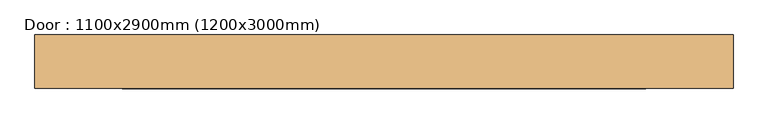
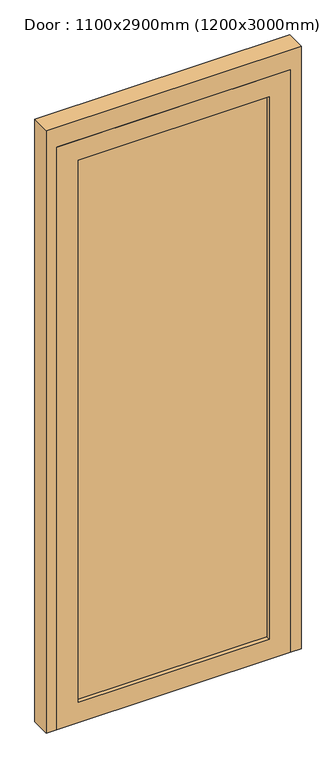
"""IFC4 building model written with IfcOpenShell, lengths in millimetres: door geometry, Door : 1100x2900mm (1200x3000mm)."""

from ifc_helpers import new_model, si_unit, frame, origin, place, context, project, spatial, polyline, outline, extrude, source, transform, mapped, element, save


def door_1100x2900mm_1200x3000mm_ee6ac332(model_context):
    return source(origin(), model_context, "Body", "SweptSolid", [
        extrude(outline(polyline([(450.0, 205.0), (450.0, 153.0), (-450.0, 153.0), (-450.0, 205.0), (450.0, 205.0)])), frame((0.0, 0.0, 100.0), z_axis=(0.0, 0.0, 1.0), x_axis=(1.0, 0.0, 0.0)), (0.0, 0.0, 1.0), 2700.0),
        extrude(outline(polyline([(2900.0, 550.0), (2900.0, -550.0), (0.0, -550.0), (0.0, 550.0), (2900.0, 550.0)]), holes=[polyline([(2800.0, 450.0), (100.0, 450.0), (100.0, -450.0), (2800.0, -450.0), (2800.0, 450.0)])]), frame((0.0, 133.0, 0.0), z_axis=(0.0, 1.0, 0.0), x_axis=(0.0, 0.0, 1.0)), (0.0, 0.0, 1.0), 92.0),
        extrude(outline(polyline([(3000.0, -600.0), (0.0, -600.0), (0.0, -550.0), (2900.0, -550.0), (2900.0, 550.0), (0.0, 550.0), (0.0, 600.0), (3000.0, 600.0), (3000.0, -600.0)])), frame((0.0, 133.0, 0.0), z_axis=(0.0, 1.0, 0.0), x_axis=(0.0, 0.0, 1.0)), (0.0, 0.0, 1.0), 92.0),
    ])


if __name__ == "__main__":
    model = new_model("IFC4")
    model_context = context("Model", 3, world=origin())
    ifc_project = project(units=[si_unit("LENGTHUNIT", "METRE", prefix="MILLI")], contexts=[model_context])
    site = spatial("IfcSite", under=ifc_project)
    building = spatial("IfcBuilding", under=site)
    placement = place(None, origin())
    door_1100x2900mm_1200x3000mm_shape = door_1100x2900mm_1200x3000mm_ee6ac332(model_context)
    element("IfcDoor", 1, ObjectType="Door : 1100x2900mm (1200x3000mm)", at=placement, inside=building, context=model_context, shape_type="MappedRepresentation", body=[
        mapped(door_1100x2900mm_1200x3000mm_shape, transform((0.0, 0.0, 0.0), x_axis=(1.0, 0.0, 0.0), y_axis=(0.0, 1.0, 0.0), z_axis=(0.0, 0.0, 1.0))),
    ])
    save(model, "model.ifc")
